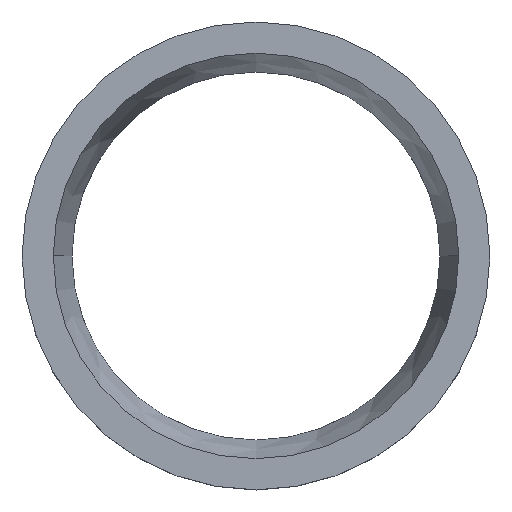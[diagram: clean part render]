
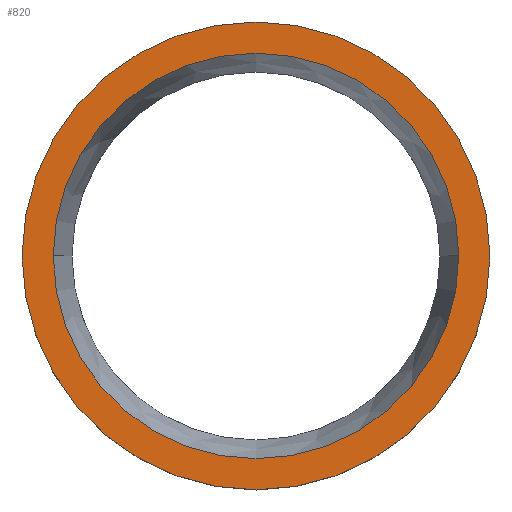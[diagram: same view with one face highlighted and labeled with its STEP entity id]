
A CAD part, top view. The second image highlights one B-rep face of the part: STEP entity #820.
In plain terms, the highlighted planar face has unit normal (0, 0, 1).
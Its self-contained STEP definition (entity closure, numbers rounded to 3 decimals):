
#125=CARTESIAN_POINT('',(0.,0.,29.));
#126=DIRECTION('',(0.,0.,1.));
#127=DIRECTION('',(1.,0.,0.));
#128=AXIS2_PLACEMENT_3D('',#125,#126,#127);
#130=CARTESIAN_POINT('',(0.,0.,29.));
#131=DIRECTION('',(0.,0.,1.));
#132=DIRECTION('',(-1.,0.,0.));
#133=AXIS2_PLACEMENT_3D('',#130,#131,#132);
#135=CARTESIAN_POINT('',(0.,0.,29.));
#136=DIRECTION('',(0.,0.,-1.));
#137=DIRECTION('',(1.,0.,0.));
#138=AXIS2_PLACEMENT_3D('',#135,#136,#137);
#140=CARTESIAN_POINT('',(0.,0.,
29.));
#141=DIRECTION('',(0.,0.,-1.));
#142=DIRECTION('',(-1.,0.,0.));
#143=AXIS2_PLACEMENT_3D('',#140,#141,#142);
#515=CARTESIAN_POINT('',(75.,0.,29.));
#516=CARTESIAN_POINT('',(-75.,0.,29.));
#517=VERTEX_POINT('',#515);
#518=VERTEX_POINT('',#516);
#519=CARTESIAN_POINT('',(65.,0.,
29.));
#520=CARTESIAN_POINT('',(-65.,0.,29.));
#521=VERTEX_POINT('',#519);
#522=VERTEX_POINT('',#520);
#805=CARTESIAN_POINT('',(0.,0.,29.));
#806=DIRECTION('',(0.,0.,1.));
#807=DIRECTION('',(1.,0.,0.));
#808=AXIS2_PLACEMENT_3D('',#805,#806,#807);
#809=PLANE('',#808);
#811=ORIENTED_EDGE('',*,*,#810,.F.);
#813=ORIENTED_EDGE('',*,*,#812,.F.);
#814=EDGE_LOOP('',(#811,#813));
#815=FACE_OUTER_BOUND('',#814,.F.);
#816=ORIENTED_EDGE('',*,*,#785,.F.);
#817=ORIENTED_EDGE('',*,*,#799,.F.);
#818=EDGE_LOOP('',(#816,#817));
#819=FACE_BOUND('',#818,.F.);
#129=CIRCLE('',#128,75.);
#134=CIRCLE('',#133,75.);
#139=CIRCLE('',#138,65.);
#144=CIRCLE('',#143,65.);
#785=EDGE_CURVE('',#521,#522,#139,.T.);
#799=EDGE_CURVE('',#522,#521,#144,.T.);
#810=EDGE_CURVE('',#517,#518,#129,.T.);
#812=EDGE_CURVE('',#518,#517,#134,.T.);
#820=ADVANCED_FACE('',(#815,#819),#809,.T.);
